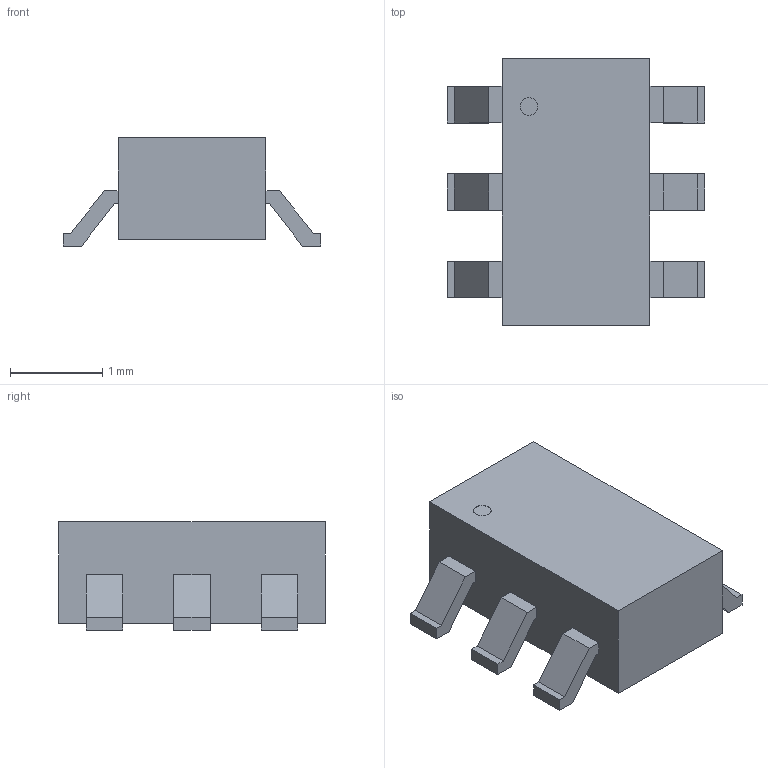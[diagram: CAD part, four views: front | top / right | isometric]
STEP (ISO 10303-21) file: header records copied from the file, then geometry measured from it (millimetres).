
FILE_DESCRIPTION(('Open CASCADE Model'),'2;1');
FILE_NAME('Open CASCADE Shape Model','2026-10-04T11:29:43',('Author'),( 'Open CASCADE'),'Open CASCADE STEP processor 7.9','Open CASCADE 7.9' ,'Unknown');
FILE_SCHEMA(('AUTOMOTIVE_DESIGN { 1 0 10303 214 1 1 1 1 }'));
Length unit declared in the file: millimetre
Products named in the file (4): TI_DBV0006A_Nominal; package_body; terminals; illustrative_pin1_index
Assembly tree (3 placements, depth 2):
  TI_DBV0006A_Nominal
    package_body
    terminals
    illustrative_pin1_index
Bounding box: 2.8 x 2.9 x 1.18 mm (x, y, z)
Volume: 5.4 mm3; surface area: 25.9 mm2
Topology: 8 solids, 8 shells, 101 faces, 234 edges, 156 vertices
Faces by surface type: plane 99, cylinder 2
Full cylindrical faces by diameter (mm): 0.192 x2
Entity records: 5918 total; most frequent: CARTESIAN_POINT 1011, DIRECTION 868, LINE 646, VECTOR 646, ORIENTED_EDGE 468, PCURVE 468, DEFINITIONAL_REPRESENTATION 468, EDGE_CURVE 234
